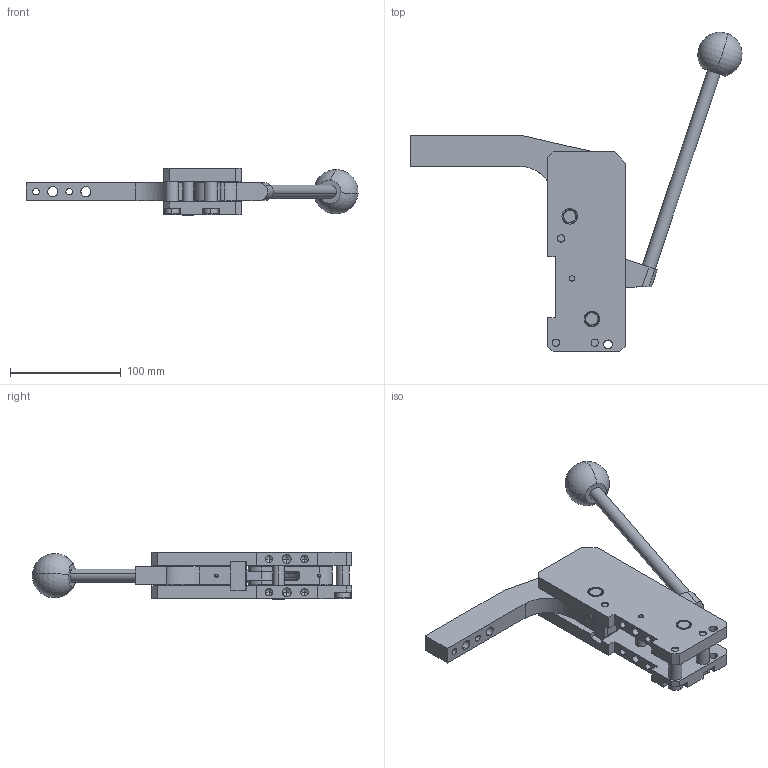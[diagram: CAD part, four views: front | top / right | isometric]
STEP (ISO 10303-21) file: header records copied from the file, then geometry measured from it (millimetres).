
FILE_DESCRIPTION(('CATIA V5 STEP Exchange'),'2;1');
FILE_NAME('G:\Konstruktion\Modelle\HKU_63_A40_TUENKERS.stp','2015-12-14T10:50:32+00:00',('none'),('none'),'CATIA Version 5 Release 19 SP 9 (IN-10)','CATIA V5 STEP AP214','none');
FILE_SCHEMA(('AUTOMOTIVE_DESIGN { 1 0 10303 214 1 1 1 1 }'));
Length unit declared in the file: millimetre
Products named in the file (1): HKU_63_A40_TUENKERS
Bounding box: 299.27 x 287.87 x 42.6 mm (x, y, z)
Volume: 492204.3 mm3; surface area: 146575.4 mm2
Topology: 32 solids, 32 shells, 530 faces, 1370 edges, 877 vertices
Faces by surface type: plane 167, cylinder 159, bspline 150, cone 50, sphere 4
Entity records: 21043 total; most frequent: CARTESIAN_POINT 9669, ORIENTED_EDGE 2668, DIRECTION 1423, EDGE_CURVE 1334, VERTEX_POINT 877, EDGE_LOOP 635, AXIS2_PLACEMENT_3D 571, ADVANCED_FACE 530
